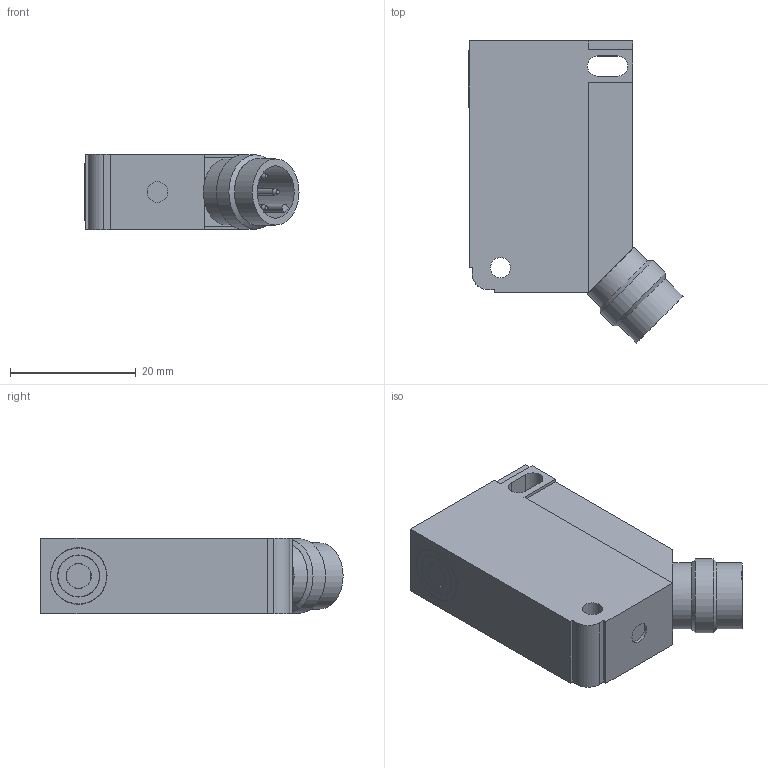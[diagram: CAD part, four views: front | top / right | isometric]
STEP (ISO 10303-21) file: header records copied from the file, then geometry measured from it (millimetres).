
FILE_DESCRIPTION((''),'2;1');
FILE_NAME('C:\TurckZip\BiU-Q12-X2-H1.stp','2009-06-25T09:29:15',('IKOROL'),(''),'Autodesk Inventor 2009','Autodesk Inventor 2009','');
FILE_SCHEMA(('CONFIG_CONTROL_DESIGN'));
Length unit declared in the file: millimetre
Products named in the file (1): Part2
Bounding box: 34 x 47.99 x 12 mm (x, y, z)
Volume: 12103.7 mm3; surface area: 4927.6 mm2
Topology: 6 solids, 6 shells, 130 faces, 297 edges, 186 vertices
Faces by surface type: plane 52, cylinder 39, bspline 22, cone 12, torus 5
Full cylindrical faces by diameter (mm): 1 x12, 3.3 x1, 3.9 x1, 4 x1, 6.6 x1, 6.7 x1, 8 x1, 8.3 x1, 8.9 x1, 9 x2, 9.6 x1, 9.9 x1, 10.5 x2, 11.8 x1
Entity records: 3867 total; most frequent: CARTESIAN_POINT 1034, DIRECTION 552, ORIENTED_EDGE 452, EDGE_CURVE 226, AXIS2_PLACEMENT_3D 219, EDGE_LOOP 210, VERTEX_POINT 174, FACE_OUTER_BOUND 130
